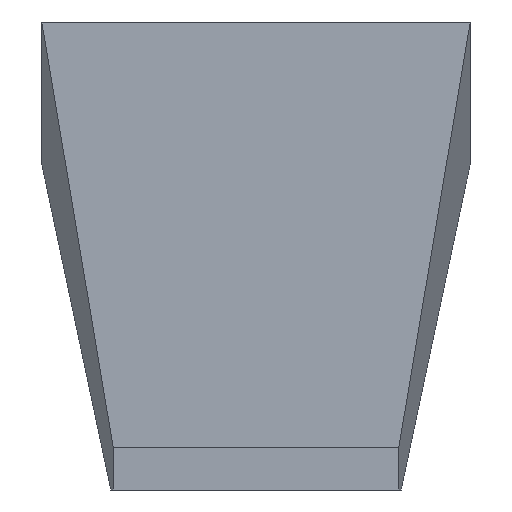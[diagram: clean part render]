
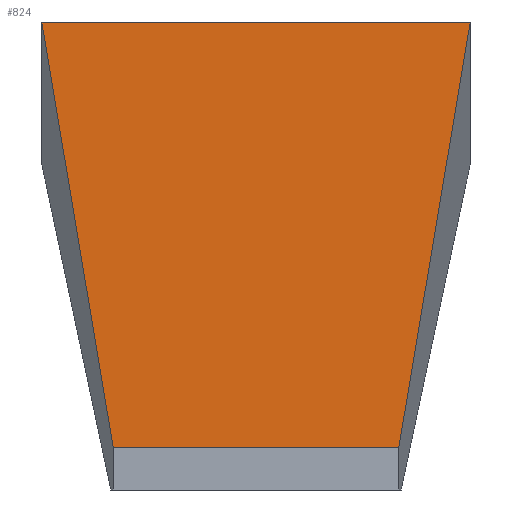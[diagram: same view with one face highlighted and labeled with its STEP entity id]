
A CAD part, left-side view. The second image highlights one B-rep face of the part: STEP entity #824.
In plain terms, the highlighted planar face has unit normal (-0.321, 0, 0.947).
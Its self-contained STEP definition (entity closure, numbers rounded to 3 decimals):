
#43 = PLANE('',#44);
#44 = AXIS2_PLACEMENT_3D('',#45,#46,#47);
#45 = CARTESIAN_POINT('',(34.001,6.,-80.293));
#46 = DIRECTION('',(0.057,-0.998,0.));
#47 = DIRECTION('',(-0.998,-0.057,0.));
#97 = PLANE('',#98);
#98 = AXIS2_PLACEMENT_3D('',#99,#100,#101);
#99 = CARTESIAN_POINT('',(-1.2,-4.,-80.293));
#100 = DIRECTION('',(0.057,0.998,0.));
#101 = DIRECTION('',(0.998,-0.057,0.));
#122 = PLANE('',#123);
#123 = AXIS2_PLACEMENT_3D('',#124,#125,#126);
#124 = CARTESIAN_POINT('',(34.001,6.5,9.11));
#125 = DIRECTION('',(-1.,0.,0.));
#126 = DIRECTION('',(0.,0.,1.));
#363 = VERTEX_POINT('',#364);
#364 = CARTESIAN_POINT('',(34.001,6.,13.11));
#385 = EDGE_CURVE('',#363,#386,#388,.T.);
#386 = VERTEX_POINT('',#387);
#387 = CARTESIAN_POINT('',(-1.2,4.,1.2));
#388 = SURFACE_CURVE('',#389,(#393,#399),.PCURVE_S1.);
#389 = LINE('',#390,#391);
#390 = CARTESIAN_POINT('',(19.876,5.197,8.331
    ));
#391 = VECTOR('',#392,1.);
#392 = DIRECTION('',(-0.946,-0.054,-0.32
    ));
#393 = PCURVE('',#43,#394);
#394 = DEFINITIONAL_REPRESENTATION('',(#395),#398);
#395 = B_SPLINE_CURVE_WITH_KNOTS('',1,(#396,#397),.UNSPECIFIED.,.F.,.F.,
  (2,2),(-14.933,22.282),.PIECEWISE_BEZIER_KNOTS.);
#396 = CARTESIAN_POINT('',(0.,-93.403));
#397 = CARTESIAN_POINT('',(35.257,-81.493));
#398 = ( GEOMETRIC_REPRESENTATION_CONTEXT(2) 
PARAMETRIC_REPRESENTATION_CONTEXT() REPRESENTATION_CONTEXT('2D SPACE',''
  ) );
#399 = PCURVE('',#400,#405);
#400 = PLANE('',#401);
#401 = AXIS2_PLACEMENT_3D('',#402,#403,#404);
#402 = CARTESIAN_POINT('',(34.001,6.5,13.11));
#403 = DIRECTION('',(0.321,0.,-0.947)
  );
#404 = DIRECTION('',(-0.947,0.,-0.321
    ));
#405 = DEFINITIONAL_REPRESENTATION('',(#406),#409);
#406 = B_SPLINE_CURVE_WITH_KNOTS('',1,(#407,#408),.UNSPECIFIED.,.F.,.F.,
  (2,2),(-14.933,22.282),.PIECEWISE_BEZIER_KNOTS.);
#407 = CARTESIAN_POINT('',(0.,-0.5));
#408 = CARTESIAN_POINT('',(37.161,-2.5));
#409 = ( GEOMETRIC_REPRESENTATION_CONTEXT(2) 
PARAMETRIC_REPRESENTATION_CONTEXT() REPRESENTATION_CONTEXT('2D SPACE',''
  ) );
#427 = PLANE('',#428);
#428 = AXIS2_PLACEMENT_3D('',#429,#430,#431);
#429 = CARTESIAN_POINT('',(-1.2,6.5,1.2));
#430 = DIRECTION('',(1.,0.,0.));
#431 = DIRECTION('',(0.,0.,-1.));
#464 = VERTEX_POINT('',#465);
#465 = CARTESIAN_POINT('',(34.001,-6.,13.11));
#486 = EDGE_CURVE('',#363,#464,#487,.T.);
#487 = SURFACE_CURVE('',#488,(#492,#499),.PCURVE_S1.);
#488 = LINE('',#489,#490);
#489 = CARTESIAN_POINT('',(34.001,6.5,13.11));
#490 = VECTOR('',#491,1.);
#491 = DIRECTION('',(0.,-1.,0.));
#492 = PCURVE('',#122,#493);
#493 = DEFINITIONAL_REPRESENTATION('',(#494),#498);
#494 = LINE('',#495,#496);
#495 = CARTESIAN_POINT('',(4.,0.));
#496 = VECTOR('',#497,1.);
#497 = DIRECTION('',(0.,-1.));
#498 = ( GEOMETRIC_REPRESENTATION_CONTEXT(2) 
PARAMETRIC_REPRESENTATION_CONTEXT() REPRESENTATION_CONTEXT('2D SPACE',''
  ) );
#499 = PCURVE('',#400,#500);
#500 = DEFINITIONAL_REPRESENTATION('',(#501),#505);
#501 = LINE('',#502,#503);
#502 = CARTESIAN_POINT('',(-0.,0.));
#503 = VECTOR('',#504,1.);
#504 = DIRECTION('',(0.,-1.));
#505 = ( GEOMETRIC_REPRESENTATION_CONTEXT(2) 
PARAMETRIC_REPRESENTATION_CONTEXT() REPRESENTATION_CONTEXT('2D SPACE',''
  ) );
#532 = VERTEX_POINT('',#533);
#533 = CARTESIAN_POINT('',(-1.2,-4.,1.2));
#554 = EDGE_CURVE('',#532,#464,#555,.T.);
#555 = SURFACE_CURVE('',#556,(#560,#566),.PCURVE_S1.);
#556 = LINE('',#557,#558);
#557 = CARTESIAN_POINT('',(3.748,-4.281,2.874
    ));
#558 = VECTOR('',#559,1.);
#559 = DIRECTION('',(0.946,-0.054,0.32)
  );
#560 = PCURVE('',#97,#561);
#561 = DEFINITIONAL_REPRESENTATION('',(#562),#565);
#562 = B_SPLINE_CURVE_WITH_KNOTS('',1,(#563,#564),.UNSPECIFIED.,.F.,.F.,
  (2,2),(-5.231,31.984),.PIECEWISE_BEZIER_KNOTS.);
#563 = CARTESIAN_POINT('',(0.,-81.493));
#564 = CARTESIAN_POINT('',(35.257,-93.403));
#565 = ( GEOMETRIC_REPRESENTATION_CONTEXT(2) 
PARAMETRIC_REPRESENTATION_CONTEXT() REPRESENTATION_CONTEXT('2D SPACE',''
  ) );
#566 = PCURVE('',#400,#567);
#567 = DEFINITIONAL_REPRESENTATION('',(#568),#571);
#568 = B_SPLINE_CURVE_WITH_KNOTS('',1,(#569,#570),.UNSPECIFIED.,.F.,.F.,
  (2,2),(-5.231,31.984),.PIECEWISE_BEZIER_KNOTS.);
#569 = CARTESIAN_POINT('',(37.161,-10.5));
#570 = CARTESIAN_POINT('',(0.,-12.5));
#571 = ( GEOMETRIC_REPRESENTATION_CONTEXT(2) 
PARAMETRIC_REPRESENTATION_CONTEXT() REPRESENTATION_CONTEXT('2D SPACE',''
  ) );
#802 = EDGE_CURVE('',#386,#532,#803,.T.);
#803 = SURFACE_CURVE('',#804,(#808,#815),.PCURVE_S1.);
#804 = LINE('',#805,#806);
#805 = CARTESIAN_POINT('',(-1.2,6.5,1.2));
#806 = VECTOR('',#807,1.);
#807 = DIRECTION('',(0.,-1.,0.));
#808 = PCURVE('',#427,#809);
#809 = DEFINITIONAL_REPRESENTATION('',(#810),#814);
#810 = LINE('',#811,#812);
#811 = CARTESIAN_POINT('',(0.,0.));
#812 = VECTOR('',#813,1.);
#813 = DIRECTION('',(0.,-1.));
#814 = ( GEOMETRIC_REPRESENTATION_CONTEXT(2) 
PARAMETRIC_REPRESENTATION_CONTEXT() REPRESENTATION_CONTEXT('2D SPACE',''
  ) );
#815 = PCURVE('',#400,#816);
#816 = DEFINITIONAL_REPRESENTATION('',(#817),#821);
#817 = LINE('',#818,#819);
#818 = CARTESIAN_POINT('',(37.161,0.));
#819 = VECTOR('',#820,1.);
#820 = DIRECTION('',(0.,-1.));
#821 = ( GEOMETRIC_REPRESENTATION_CONTEXT(2) 
PARAMETRIC_REPRESENTATION_CONTEXT() REPRESENTATION_CONTEXT('2D SPACE',''
  ) );
#824 = ADVANCED_FACE('',(#825),#400,.F.);
#825 = FACE_BOUND('',#826,.F.);
#826 = EDGE_LOOP('',(#827,#828,#829,#830));
#827 = ORIENTED_EDGE('',*,*,#385,.F.);
#828 = ORIENTED_EDGE('',*,*,#486,.T.);
#829 = ORIENTED_EDGE('',*,*,#554,.F.);
#830 = ORIENTED_EDGE('',*,*,#802,.F.);
